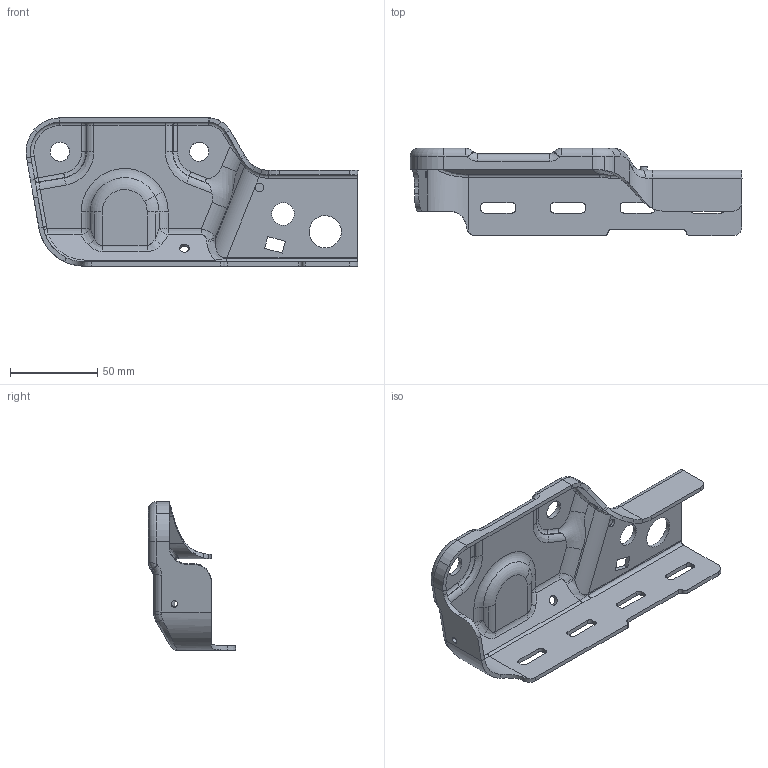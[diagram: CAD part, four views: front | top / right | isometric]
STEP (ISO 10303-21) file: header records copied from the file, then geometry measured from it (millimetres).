
FILE_DESCRIPTION(('CATIA V5 STEP Exchange'),'2;1');
FILE_NAME('C:\Users\nobody\Desktop\SHT0012266_C.stp','2024-03-05T02:08:22+00:00',('none'),('none'),'CATIA Version 5 Release 20 GA (IN-10)','CATIA V5 STEP AP203 Edition 2','none');
FILE_SCHEMA(('AP203_CONFIGURATION_CONTROLLED_3D_DESIGN_OF_MECHANICAL_PARTS_AND_ASSEMBLIES_MIM_LF { 1 0 10303 403 2 1 2}'));
Length unit declared in the file: millimetre
Products named in the file (1): SHT0012266
Bounding box: 190.7 x 50 x 85.19 mm (x, y, z)
Volume: 55844.6 mm3; surface area: 47270.8 mm2
Topology: 1 solids, 1 shells, 278 faces, 708 edges, 429 vertices
Faces by surface type: cylinder 119, plane 62, bspline 59, torus 22, revolution 6, extrusion 6, sphere 4
Entity records: 24233 total; most frequent: CARTESIAN_POINT 18300, ORIENTED_EDGE 1408, DIRECTION 846, EDGE_CURVE 704, VERTEX_POINT 429, AXIS2_PLACEMENT_3D 380, EDGE_LOOP 301, ADVANCED_FACE 278
